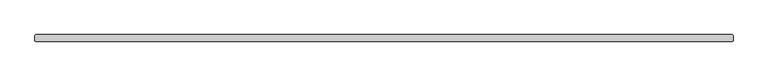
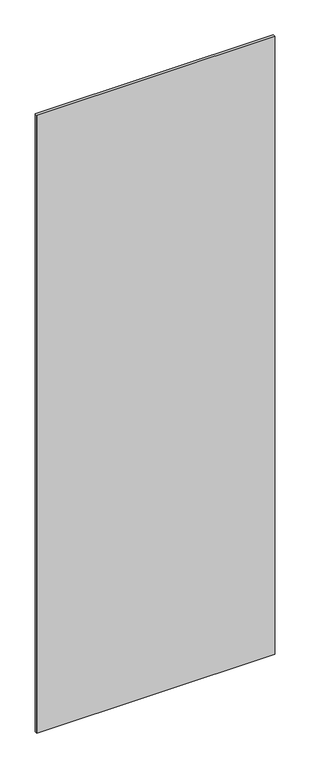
"""IFC4 building model written with IfcOpenShell, lengths in millimetres: plate geometry, Panel Flex Glassline : Panel Flex Glassline."""

from ifc_helpers import new_model, si_unit, origin, origin_with_axes, place, context, project, spatial, polyline, outline, extrude, source, transform, mapped, element, save


def plate_38296ff7(model_context):
    return source(origin(), model_context, "Body", "SweptSolid", [
        extrude(outline(polyline([(498.5, 12.0), (499.5, 11.0), (499.5, 3.0), (498.5, 2.0), (-498.5, 2.0), (-499.5, 3.0), (-499.5, 11.0), (-498.5, 12.0), (498.5, 12.0)])), origin_with_axes(), (0.0, 0.0, 1.0), 2735.0),
    ])


if __name__ == "__main__":
    model = new_model("IFC4")
    model_context = context("Model", 3, world=origin())
    ifc_project = project(units=[si_unit("LENGTHUNIT", "METRE", prefix="MILLI")], contexts=[model_context])
    site = spatial("IfcSite", under=ifc_project)
    building = spatial("IfcBuilding", under=site)
    placement = place(None, origin())
    plate_shape = plate_38296ff7(model_context)
    element("IfcPlate", 1, ObjectType="Panel Flex Glassline : Panel Flex Glassline", at=placement, inside=building, context=model_context, shape_type="MappedRepresentation", body=[
        mapped(plate_shape, transform((0.0, 0.0, 0.0), x_axis=(1.0, 0.0, 0.0), y_axis=(0.0, 1.0, 0.0), z_axis=(0.0, 0.0, 1.0))),
    ])
    save(model, "model.ifc")
